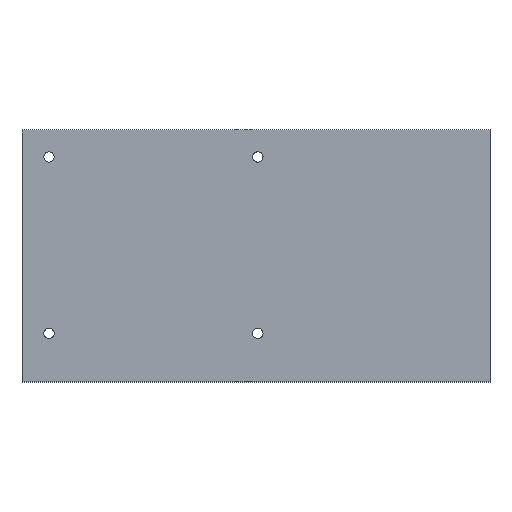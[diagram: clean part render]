
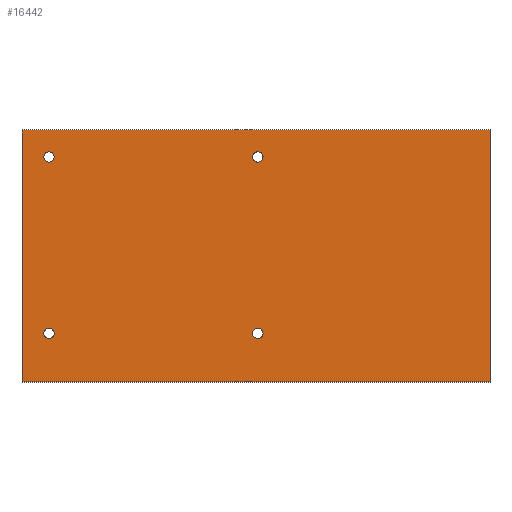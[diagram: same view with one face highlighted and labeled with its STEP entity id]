
A CAD part, top view. The second image highlights one B-rep face of the part: STEP entity #16442.
In plain terms, the highlighted planar face has unit normal (0, 0, 1).
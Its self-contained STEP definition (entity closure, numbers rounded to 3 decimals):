
#32 = VERTEX_POINT('',#33);
#33 = CARTESIAN_POINT('',(0.,70.,3.));
#39 = EDGE_CURVE('',#32,#40,#42,.T.);
#40 = VERTEX_POINT('',#41);
#41 = CARTESIAN_POINT('',(0.,0.,3.));
#42 = LINE('',#43,#44);
#43 = CARTESIAN_POINT('',(0.,70.,3.));
#44 = VECTOR('',#45,1.);
#45 = DIRECTION('',(0.,-1.,0.));
#16425 = VERTEX_POINT('',#16426);
#16426 = CARTESIAN_POINT('',(130.,0.,3.));
#16432 = EDGE_CURVE('',#40,#16425,#16433,.T.);
#16433 = LINE('',#16434,#16435);
#16434 = CARTESIAN_POINT('',(0.,0.,3.));
#16435 = VECTOR('',#16436,1.);
#16436 = DIRECTION('',(1.,0.,0.));
#16442 = ADVANCED_FACE('',(#16443,#16461,#16472,#16483,#16494),#16505,
  .T.);
#16443 = FACE_BOUND('',#16444,.T.);
#16444 = EDGE_LOOP('',(#16445,#16453,#16454,#16455));
#16445 = ORIENTED_EDGE('',*,*,#16446,.F.);
#16446 = EDGE_CURVE('',#32,#16447,#16449,.T.);
#16447 = VERTEX_POINT('',#16448);
#16448 = CARTESIAN_POINT('',(130.,70.,3.));
#16449 = LINE('',#16450,#16451);
#16450 = CARTESIAN_POINT('',(0.,70.,3.));
#16451 = VECTOR('',#16452,1.);
#16452 = DIRECTION('',(1.,0.,0.));
#16453 = ORIENTED_EDGE('',*,*,#39,.T.);
#16454 = ORIENTED_EDGE('',*,*,#16432,.T.);
#16455 = ORIENTED_EDGE('',*,*,#16456,.F.);
#16456 = EDGE_CURVE('',#16447,#16425,#16457,.T.);
#16457 = LINE('',#16458,#16459);
#16458 = CARTESIAN_POINT('',(130.,70.,3.));
#16459 = VECTOR('',#16460,1.);
#16460 = DIRECTION('',(0.,-1.,0.));
#16461 = FACE_BOUND('',#16462,.T.);
#16462 = EDGE_LOOP('',(#16463));
#16463 = ORIENTED_EDGE('',*,*,#16464,.F.);
#16464 = EDGE_CURVE('',#16465,#16465,#16467,.T.);
#16465 = VERTEX_POINT('',#16466);
#16466 = CARTESIAN_POINT('',(7.5,61.05,3.));
#16467 = CIRCLE('',#16468,1.45);
#16468 = AXIS2_PLACEMENT_3D('',#16469,#16470,#16471);
#16469 = CARTESIAN_POINT('',(7.5,62.5,3.));
#16470 = DIRECTION('',(0.,0.,1.));
#16471 = DIRECTION('',(0.,-1.,0.));
#16472 = FACE_BOUND('',#16473,.T.);
#16473 = EDGE_LOOP('',(#16474));
#16474 = ORIENTED_EDGE('',*,*,#16475,.F.);
#16475 = EDGE_CURVE('',#16476,#16476,#16478,.T.);
#16476 = VERTEX_POINT('',#16477);
#16477 = CARTESIAN_POINT('',(7.5,12.05,3.));
#16478 = CIRCLE('',#16479,1.45);
#16479 = AXIS2_PLACEMENT_3D('',#16480,#16481,#16482);
#16480 = CARTESIAN_POINT('',(7.5,13.5,3.));
#16481 = DIRECTION('',(0.,0.,1.));
#16482 = DIRECTION('',(0.,-1.,0.));
#16483 = FACE_BOUND('',#16484,.T.);
#16484 = EDGE_LOOP('',(#16485));
#16485 = ORIENTED_EDGE('',*,*,#16486,.F.);
#16486 = EDGE_CURVE('',#16487,#16487,#16489,.T.);
#16487 = VERTEX_POINT('',#16488);
#16488 = CARTESIAN_POINT('',(65.5,61.05,3.));
#16489 = CIRCLE('',#16490,1.45);
#16490 = AXIS2_PLACEMENT_3D('',#16491,#16492,#16493);
#16491 = CARTESIAN_POINT('',(65.5,62.5,3.));
#16492 = DIRECTION('',(0.,0.,1.));
#16493 = DIRECTION('',(0.,-1.,0.));
#16494 = FACE_BOUND('',#16495,.T.);
#16495 = EDGE_LOOP('',(#16496));
#16496 = ORIENTED_EDGE('',*,*,#16497,.F.);
#16497 = EDGE_CURVE('',#16498,#16498,#16500,.T.);
#16498 = VERTEX_POINT('',#16499);
#16499 = CARTESIAN_POINT('',(65.5,12.05,3.));
#16500 = CIRCLE('',#16501,1.45);
#16501 = AXIS2_PLACEMENT_3D('',#16502,#16503,#16504);
#16502 = CARTESIAN_POINT('',(65.5,13.5,3.));
#16503 = DIRECTION('',(0.,0.,1.));
#16504 = DIRECTION('',(0.,-1.,0.));
#16505 = PLANE('',#16506);
#16506 = AXIS2_PLACEMENT_3D('',#16507,#16508,#16509);
#16507 = CARTESIAN_POINT('',(0.,70.,3.));
#16508 = DIRECTION('',(0.,0.,1.));
#16509 = DIRECTION('',(0.,-1.,0.));
